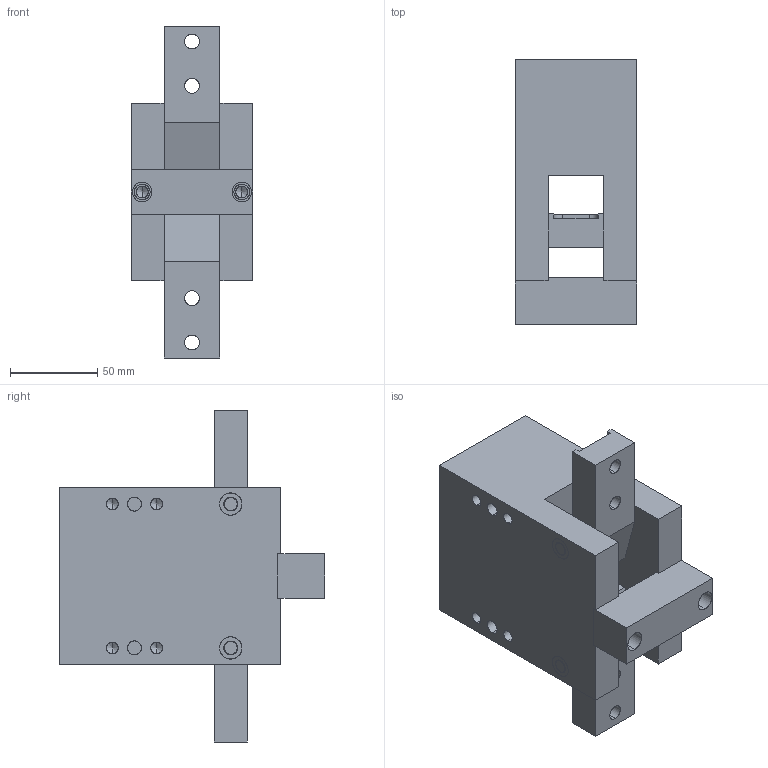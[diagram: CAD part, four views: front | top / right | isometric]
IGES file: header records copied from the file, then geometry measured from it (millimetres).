
Start section: SolidWorks IGES file using analytic representation for surfaces
Global section: file name: C:\Users\jmkuhnes\Pictures\AGA\AGA-50\AGA-50 OPEN in IN.IGS; native system: SolidWorks 2013; preprocessor: SolidWorks 2013; author: jmkuhnes; date: 141103.144618; units: inch
Bounding box: 69.85 x 152.4 x 190.5 mm (x, y, z)
Surface area: 116475.4 mm2 (no closed solid volume)
Topology: 0 solids, 0 shells, 199 faces, 3406 edges, 3386 vertices
Faces by surface type: revolution 123, bspline 76
